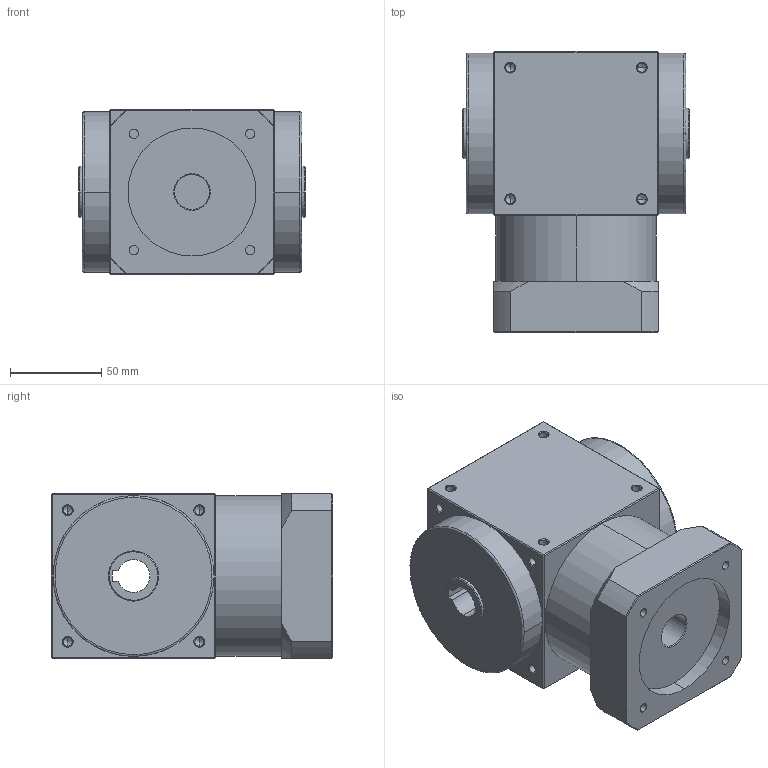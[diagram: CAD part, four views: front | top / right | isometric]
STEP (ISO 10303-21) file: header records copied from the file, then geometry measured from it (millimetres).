
FILE_DESCRIPTION (( 'STEP AP214' ), '1' );
FILE_NAME ('AT090-FC-L1-750W.STEP', '2020-10-08T09:25:55', ( '微软用户' ), ( '微软中国' ), 'SwSTEP 2.0', 'SolidWorks 2014', '' );
FILE_SCHEMA (( 'AUTOMOTIVE_DESIGN' ));
Length unit declared in the file: millimetre
Products named in the file (2): AT090-FC-L1-750W
Bounding box: 124 x 154 x 90 mm (x, y, z)
Volume: 1271138.3 mm3; surface area: 107315.9 mm2
Topology: 2 solids, 2 shells, 260 faces, 682 edges, 394 vertices
Faces by surface type: cylinder 111, cone 94, plane 51, bspline 4
Entity records: 10797 total; most frequent: CARTESIAN_POINT 2114, ORIENTED_EDGE 1284, DIRECTION 1242, EDGE_CURVE 642, AXIS2_PLACEMENT_3D 486, VERTEX_POINT 394, EDGE_LOOP 294, LINE 270
